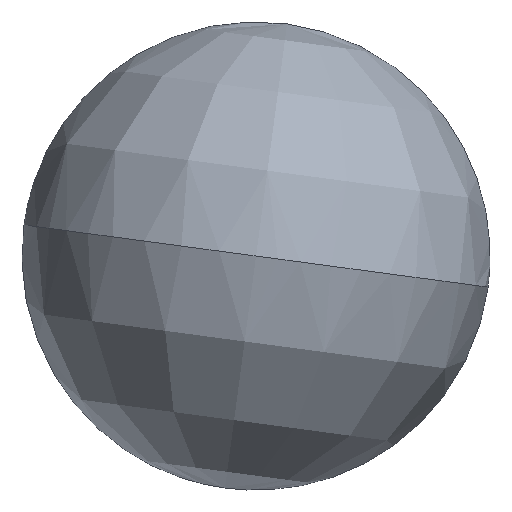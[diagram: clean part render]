
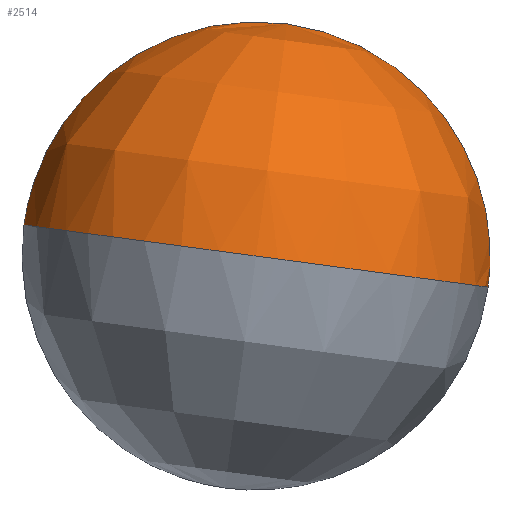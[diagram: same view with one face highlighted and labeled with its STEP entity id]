
A CAD part, front view. The second image highlights one B-rep face of the part: STEP entity #2514.
In plain terms, the highlighted free-form (B-spline) face has degree [2, 2] with [5, 5] control points.
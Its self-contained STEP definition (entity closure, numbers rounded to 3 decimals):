
#2514=ADVANCED_FACE('',(#4133),#35124,.T.);
#4133=FACE_OUTER_BOUND('',#5977,.T.);
#5977=EDGE_LOOP('',(#17841,#17842,#17843,#17844));
#17841=ORIENTED_EDGE('',*,*,#23885,.T.);
#17842=ORIENTED_EDGE('',*,*,#23810,.F.);
#17843=ORIENTED_EDGE('',*,*,#23809,.F.);
#17844=ORIENTED_EDGE('',*,*,#23869,.F.);
#23809=EDGE_CURVE('',#34418,#34419,#25350,.T.);
#23810=EDGE_CURVE('',#34419,#34457,#25351,.T.);
#23869=EDGE_CURVE('',#34454,#34418,#25373,.T.);
#23885=EDGE_CURVE('',#34454,#34457,#25385,.T.);
#25350=(
BOUNDED_CURVE()
B_SPLINE_CURVE(2,(#96134,#96135,#96136),.UNSPECIFIED.,.F.,.F.)
B_SPLINE_CURVE_WITH_KNOTS((3,3),(142.169,338.518),
 .UNSPECIFIED.)
CURVE()
GEOMETRIC_REPRESENTATION_ITEM()
RATIONAL_B_SPLINE_CURVE((1.,0.707,1.))
REPRESENTATION_ITEM('')
);
#25351=(
BOUNDED_CURVE()
B_SPLINE_CURVE(2,(#96137,#96138,#96139),.UNSPECIFIED.,.F.,.F.)
B_SPLINE_CURVE_WITH_KNOTS((3,3),(0.,196.35),.UNSPECIFIED.)
CURVE()
GEOMETRIC_REPRESENTATION_ITEM()
RATIONAL_B_SPLINE_CURVE((1.,0.707,1.))
REPRESENTATION_ITEM('')
);
#25373=(
BOUNDED_CURVE()
B_SPLINE_CURVE(2,(#96439,#96440,#96441),.UNSPECIFIED.,.F.,.F.)
B_SPLINE_CURVE_WITH_KNOTS((3,3),(0.,196.35),.UNSPECIFIED.)
CURVE()
GEOMETRIC_REPRESENTATION_ITEM()
RATIONAL_B_SPLINE_CURVE((1.,0.707,1.))
REPRESENTATION_ITEM('')
);
#25385=(
BOUNDED_CURVE()
B_SPLINE_CURVE(2,(#96555,#96556,#96557),.UNSPECIFIED.,.F.,.F.)
B_SPLINE_CURVE_WITH_KNOTS((3,3),(0.,196.35),.UNSPECIFIED.)
CURVE()
GEOMETRIC_REPRESENTATION_ITEM()
RATIONAL_B_SPLINE_CURVE((1.,0.707,1.))
REPRESENTATION_ITEM('')
);
#34418=VERTEX_POINT('',#95907);
#34419=VERTEX_POINT('',#95908);
#34454=VERTEX_POINT('',#95943);
#34457=VERTEX_POINT('',#95946);
#35124=(
BOUNDED_SURFACE()
B_SPLINE_SURFACE(2,2,((#95733,#95734,#95735,#95736,#95737),(#95738,#95739,
#95740,#95741,#95742),(#95743,#95744,#95745,#95746,#95747),(#95748,#95749,
#95750,#95751,#95752),(#95753,#95754,#95755,#95756,#95757)),
 .UNSPECIFIED.,.F.,.F.,.F.)
B_SPLINE_SURFACE_WITH_KNOTS((3,2,3),(3,2,3),(0.,196.35,392.699),
(0.,196.35,392.699),.UNSPECIFIED.)
GEOMETRIC_REPRESENTATION_ITEM()
RATIONAL_B_SPLINE_SURFACE(((1.,0.707,1.,0.707,1.),
(0.707,0.5,0.707,0.5,0.707),(1.,0.707,
1.,0.707,1.),(0.707,0.5,0.707,0.5,0.707),
(1.,0.707,1.,0.707,1.)))
REPRESENTATION_ITEM('')
SURFACE()
);
#95733=CARTESIAN_POINT('',(0.,0.,125.));
#95734=CARTESIAN_POINT('',(125.,0.,125.));
#95735=CARTESIAN_POINT('',(125.,0.,0.));
#95736=CARTESIAN_POINT('',(125.,0.,-125.));
#95737=CARTESIAN_POINT('',(0.,0.,-125.));
#95738=CARTESIAN_POINT('',(0.,0.,125.));
#95739=CARTESIAN_POINT('',(125.,-125.,125.));
#95740=CARTESIAN_POINT('',(125.,-125.,0.));
#95741=CARTESIAN_POINT('',(125.,-125.,-125.));
#95742=CARTESIAN_POINT('',(0.,0.,-125.));
#95743=CARTESIAN_POINT('',(0.,0.,125.));
#95744=CARTESIAN_POINT('',(0.,-125.,125.));
#95745=CARTESIAN_POINT('',(0.,-125.,0.));
#95746=CARTESIAN_POINT('',(0.,-125.,-125.));
#95747=CARTESIAN_POINT('',(0.,0.,-125.));
#95748=CARTESIAN_POINT('',(0.,0.,125.));
#95749=CARTESIAN_POINT('',(-125.,-125.,125.));
#95750=CARTESIAN_POINT('',(-125.,-125.,0.));
#95751=CARTESIAN_POINT('',(-125.,-125.,-125.));
#95752=CARTESIAN_POINT('',(0.,0.,-125.));
#95753=CARTESIAN_POINT('',(0.,0.,125.));
#95754=CARTESIAN_POINT('',(-125.,0.,125.));
#95755=CARTESIAN_POINT('',(-125.,0.,0.));
#95756=CARTESIAN_POINT('',(-125.,0.,-125.));
#95757=CARTESIAN_POINT('',(0.,0.,-125.));
#95907=CARTESIAN_POINT('',(125.,0.,0.));
#95908=CARTESIAN_POINT('',(0.,-125.,0.));
#95943=CARTESIAN_POINT('',(0.,0.,125.));
#95946=CARTESIAN_POINT('',(-125.,0.,0.));
#96134=CARTESIAN_POINT('',(125.,0.,0.));
#96135=CARTESIAN_POINT('',(125.,-125.,0.));
#96136=CARTESIAN_POINT('',(0.,-125.,0.));
#96137=CARTESIAN_POINT('',(0.,-125.,0.));
#96138=CARTESIAN_POINT('',(-125.,-125.,0.));
#96139=CARTESIAN_POINT('',(-125.,0.,0.));
#96439=CARTESIAN_POINT('',(0.,0.,125.));
#96440=CARTESIAN_POINT('',(125.,0.,125.));
#96441=CARTESIAN_POINT('',(125.,0.,0.));
#96555=CARTESIAN_POINT('',(0.,0.,125.));
#96556=CARTESIAN_POINT('',(-125.,0.,125.));
#96557=CARTESIAN_POINT('',(-125.,0.,0.));
